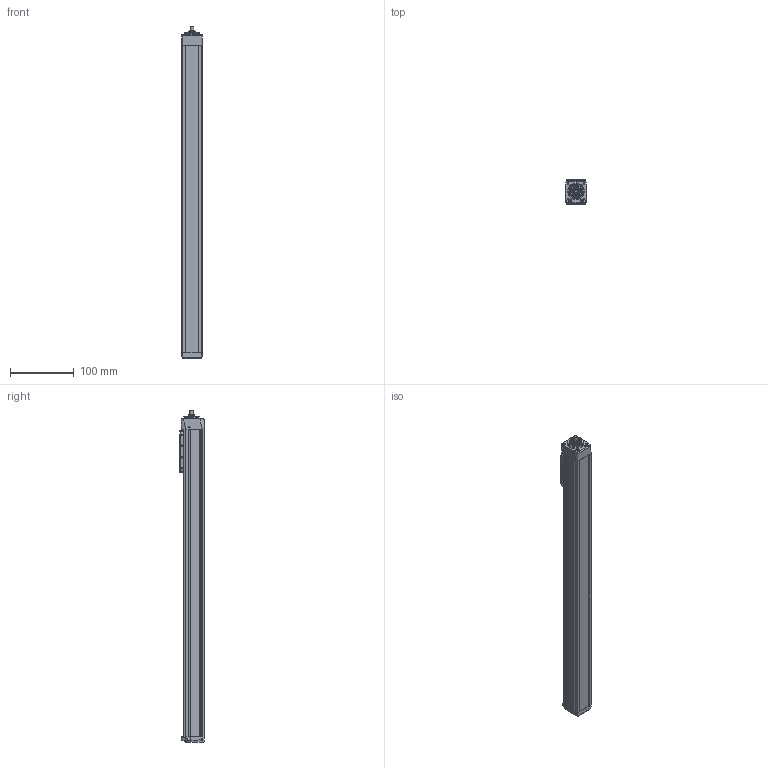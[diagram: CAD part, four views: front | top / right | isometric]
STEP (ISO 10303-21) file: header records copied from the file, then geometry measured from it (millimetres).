
FILE_DESCRIPTION(/* description */ ('STEP AP214'),/* implementation_level */ '2;1');
FILE_NAME(/* name */ 'MGBS 32 0802 400(0)',/* time_stamp */ '2023-04-12T10:44:27+02:00',/* author */ ('License CC BY-ND 4.0'),/* organization */ ('CADENAS'),/* preprocessor_version */ 'ST-DEVELOPER v19.3',/* originating_system */ 'PARTsolutions',/* authorisation */ ' ');
FILE_SCHEMA (('AUTOMOTIVE_DESIGN {1 0 10303 214 3 1 1}'));
Length unit declared in the file: millimetre
Products named in the file (6): MGBS 32 0802 400(0); MGBS 32 400_protection_strip; MGBS 32_carriage; MGBS 32_end_block; MGBS 32 400_profile; MGBS 32_drive_block
Assembly tree (5 placements, depth 2):
  MGBS 32 0802 400(0)
    MGBS 32 400_protection_strip
    MGBS 32_carriage
    MGBS 32_end_block
    MGBS 32 400_profile
    MGBS 32_drive_block
Bounding box: 32 x 38.5 x 519.5 mm (x, y, z)
Volume: 483823.8 mm3; surface area: 121364.6 mm2
Topology: 5 solids, 5 shells, 638 faces, 1686 edges, 1092 vertices
Faces by surface type: plane 301, cylinder 160, cone 94, bspline 56, torus 25, sphere 2
Full cylindrical faces by diameter (mm): 0.3 x1, 1.567 x4, 1.755 x4, 1.8 x2, 2 x2, 2.3 x4, 2.459 x8, 2.46 x4, 2.5 x11, 3 x1, 3.8 x4, 4.5 x6, 5 x5, 7.5 x1, 8 x1, 10 x1, 13.84 x1, 14.2 x1, 17.8 x1, 18.16 x1, 19.5 x1, 25 x2, 25.7 x1
Entity records: 23436 total; most frequent: CARTESIAN_POINT 4050, DIRECTION 3216, ORIENTED_EDGE 2990, EDGE_CURVE 1495, AXIS2_PLACEMENT_3D 1173, VERTEX_POINT 1077, LINE 870, VECTOR 870
